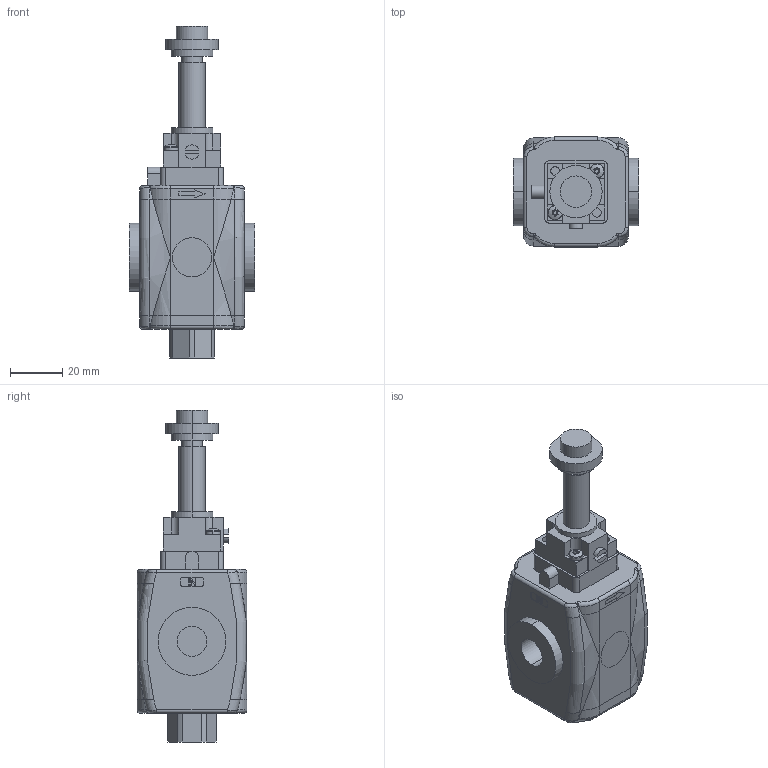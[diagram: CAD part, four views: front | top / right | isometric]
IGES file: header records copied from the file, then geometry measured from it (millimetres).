
Global section: file name: No Iges File Name specified; native system: Autodesk Inventor 2010; preprocessor: AutoDesk Inventor Iges Exporter R2010; author: valotma1; date: 20100823.141828; units: millimetre
Bounding box: 48 x 42 x 127 mm (x, y, z)
Volume: 107929.3 mm3; surface area: 19406.2 mm2
Topology: 4 solids, 4 shells, 376 faces, 938 edges, 575 vertices
Faces by surface type: plane 145, bspline 76, cylinder 65, revolution 56, torus 28, cone 4, sphere 2
